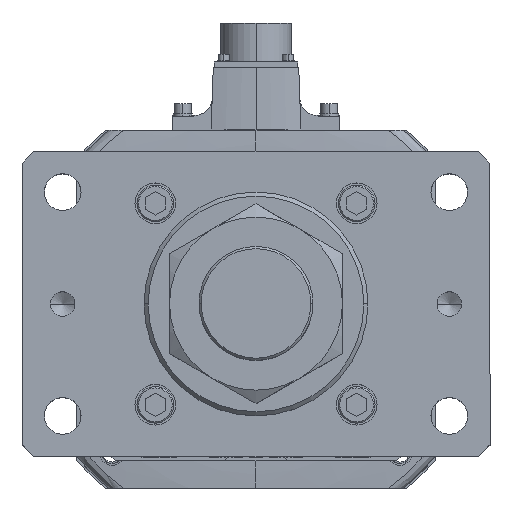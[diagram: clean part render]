
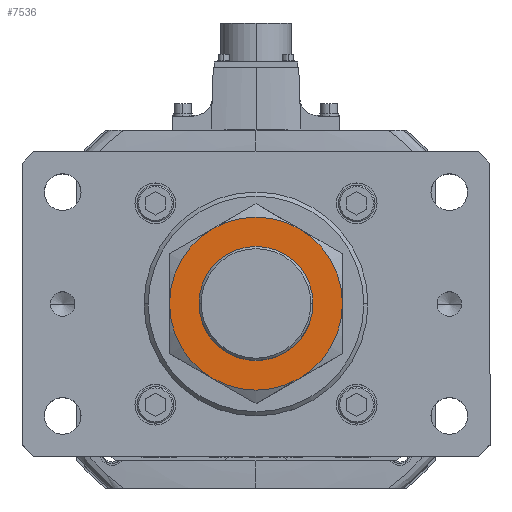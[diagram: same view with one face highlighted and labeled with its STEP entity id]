
A CAD part, top view. The second image highlights one B-rep face of the part: STEP entity #7536.
In plain terms, the highlighted planar face has unit normal (0, 0, 1).
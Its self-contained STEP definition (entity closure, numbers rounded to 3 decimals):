
#395 = ORIENTED_EDGE ( 'NONE', *, *, #1580, .F. ) ;
#473 = EDGE_CURVE ( 'NONE', #54044, #25360, #28464, .T. ) ;
#736 = AXIS2_PLACEMENT_3D ( 'NONE', #23991, #34779, #35622 ) ;
#1580 = EDGE_CURVE ( 'NONE', #4588, #2948, #21050, .T. ) ;
#2210 = DIRECTION ( 'NONE',  ( 0., 0., -1. ) ) ;
#2573 = CARTESIAN_POINT ( 'NONE',  ( 0., 0., 34. ) ) ;
#2948 = VERTEX_POINT ( 'NONE', #47380 ) ;
#4588 = VERTEX_POINT ( 'NONE', #53833 ) ;
#6502 = PLANE ( 'NONE',  #14904 ) ;
#6998 = DIRECTION ( 'NONE',  ( -1., 0., 0. ) ) ;
#7536 = ADVANCED_FACE ( 'NONE', ( #39395, #11493 ), #6502, .T. ) ;
#8649 = EDGE_CURVE ( 'NONE', #18052, #40523, #51288, .T. ) ;
#10005 = VERTEX_POINT ( 'NONE', #30691 ) ;
#10472 = AXIS2_PLACEMENT_3D ( 'NONE', #14036, #10491, #40042 ) ;
#10491 = DIRECTION ( 'NONE',  ( 0., 0., -1. ) ) ;
#10882 = EDGE_LOOP ( 'NONE', ( #395, #53595, #55169, #12243, #21386, #20840 ) ) ;
#11056 = AXIS2_PLACEMENT_3D ( 'NONE', #49977, #48703, #32687 ) ;
#11493 = FACE_BOUND ( 'NONE', #37545, .T. ) ;
#11690 = DIRECTION ( 'NONE',  ( 1., 0., 0. ) ) ;
#11876 = CARTESIAN_POINT ( 'NONE',  ( 0., 0., 34. ) ) ;
#12243 = ORIENTED_EDGE ( 'NONE', *, *, #48335, .F. ) ;
#13379 = ORIENTED_EDGE ( 'NONE', *, *, #53404, .F. ) ;
#14036 = CARTESIAN_POINT ( 'NONE',  ( 0., 0., 34. ) ) ;
#14904 = AXIS2_PLACEMENT_3D ( 'NONE', #2573, #20185, #50311 ) ;
#15355 = CARTESIAN_POINT ( 'NONE',  ( 0., 0., 34. ) ) ;
#15455 = ORIENTED_EDGE ( 'NONE', *, *, #473, .F. ) ;
#15999 = CARTESIAN_POINT ( 'NONE',  ( 28., 0., 34. ) ) ;
#16585 = EDGE_CURVE ( 'NONE', #10005, #47398, #43805, .T. ) ;
#17932 = CARTESIAN_POINT ( 'NONE',  ( 0., 0., 34. ) ) ;
#18052 = VERTEX_POINT ( 'NONE', #23069 ) ;
#18280 = AXIS2_PLACEMENT_3D ( 'NONE', #11876, #36942, #11690 ) ;
#20185 = DIRECTION ( 'NONE',  ( 0., 0., 1. ) ) ;
#20840 = ORIENTED_EDGE ( 'NONE', *, *, #34421, .F. ) ;
#21050 = CIRCLE ( 'NONE', #41740, 42.5 ) ;
#21386 = ORIENTED_EDGE ( 'NONE', *, *, #8649, .F. ) ;
#21764 = DIRECTION ( 'NONE',  ( 1., 0., 0. ) ) ;
#23069 = CARTESIAN_POINT ( 'NONE',  ( -21.25, -36.806, 34. ) ) ;
#23111 = CARTESIAN_POINT ( 'NONE',  ( -28., 0., 34. ) ) ;
#23372 = CARTESIAN_POINT ( 'NONE',  ( 0., 0., 34. ) ) ;
#23429 = CIRCLE ( 'NONE', #10472, 42.5 ) ;
#23446 = AXIS2_PLACEMENT_3D ( 'NONE', #17932, #51597, #47679 ) ;
#23991 = CARTESIAN_POINT ( 'NONE',  ( 0., 0., 34. ) ) ;
#25360 = VERTEX_POINT ( 'NONE', #23111 ) ;
#25362 = EDGE_CURVE ( 'NONE', #47398, #4588, #23429, .T. ) ;
#27051 = CARTESIAN_POINT ( 'NONE',  ( -42.5, 0., 34. ) ) ;
#27458 = DIRECTION ( 'NONE',  ( 1., 0., 0. ) ) ;
#28464 = CIRCLE ( 'NONE', #736, 28. ) ;
#29967 = DIRECTION ( 'NONE',  ( 0., 0., -1. ) ) ;
#30691 = CARTESIAN_POINT ( 'NONE',  ( -21.25, 36.806, 34. ) ) ;
#32464 = CIRCLE ( 'NONE', #11056, 28. ) ;
#32687 = DIRECTION ( 'NONE',  ( 1., 0., 0. ) ) ;
#34421 = EDGE_CURVE ( 'NONE', #2948, #18052, #39632, .T. ) ;
#34779 = DIRECTION ( 'NONE',  ( 0., 0., 1. ) ) ;
#35622 = DIRECTION ( 'NONE',  ( 1., 0., 0. ) ) ;
#36318 = AXIS2_PLACEMENT_3D ( 'NONE', #50778, #29967, #21764 ) ;
#36942 = DIRECTION ( 'NONE',  ( 0., 0., -1. ) ) ;
#37545 = EDGE_LOOP ( 'NONE', ( #13379, #15455 ) ) ;
#39395 = FACE_OUTER_BOUND ( 'NONE', #10882, .T. ) ;
#39632 = CIRCLE ( 'NONE', #18280, 42.5 ) ;
#40042 = DIRECTION ( 'NONE',  ( 1., 0., 0. ) ) ;
#40523 = VERTEX_POINT ( 'NONE', #27051 ) ;
#41740 = AXIS2_PLACEMENT_3D ( 'NONE', #23372, #2210, #27458 ) ;
#43046 = AXIS2_PLACEMENT_3D ( 'NONE', #15355, #53636, #6998 ) ;
#43805 = CIRCLE ( 'NONE', #23446, 42.5 ) ;
#47058 = CARTESIAN_POINT ( 'NONE',  ( 21.25, 36.806, 34. ) ) ;
#47380 = CARTESIAN_POINT ( 'NONE',  ( 21.25, -36.806, 34. ) ) ;
#47398 = VERTEX_POINT ( 'NONE', #47058 ) ;
#47679 = DIRECTION ( 'NONE',  ( 1., 0., 0. ) ) ;
#48335 = EDGE_CURVE ( 'NONE', #40523, #10005, #49577, .T. ) ;
#48703 = DIRECTION ( 'NONE',  ( 0., 0., 1. ) ) ;
#49577 = CIRCLE ( 'NONE', #43046, 42.5 ) ;
#49977 = CARTESIAN_POINT ( 'NONE',  ( 0., 0., 34. ) ) ;
#50311 = DIRECTION ( 'NONE',  ( 1., 0., 0. ) ) ;
#50778 = CARTESIAN_POINT ( 'NONE',  ( 0., 0., 34. ) ) ;
#51288 = CIRCLE ( 'NONE', #36318, 42.5 ) ;
#51597 = DIRECTION ( 'NONE',  ( 0., 0., -1. ) ) ;
#53404 = EDGE_CURVE ( 'NONE', #25360, #54044, #32464, .T. ) ;
#53595 = ORIENTED_EDGE ( 'NONE', *, *, #25362, .F. ) ;
#53636 = DIRECTION ( 'NONE',  ( 0., 0., -1. ) ) ;
#53833 = CARTESIAN_POINT ( 'NONE',  ( 42.5, 0., 34. ) ) ;
#54044 = VERTEX_POINT ( 'NONE', #15999 ) ;
#55169 = ORIENTED_EDGE ( 'NONE', *, *, #16585, .F. ) ;
